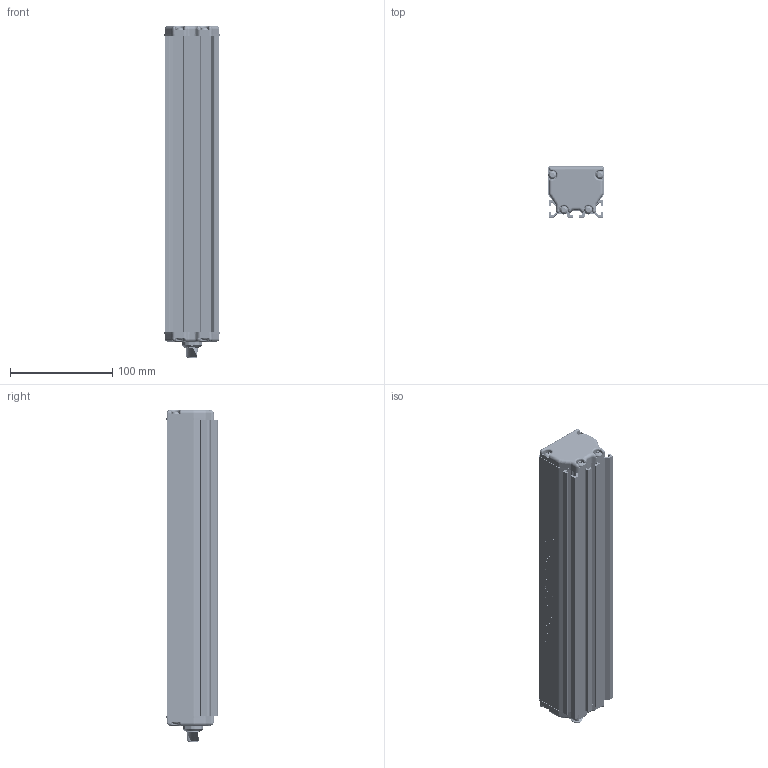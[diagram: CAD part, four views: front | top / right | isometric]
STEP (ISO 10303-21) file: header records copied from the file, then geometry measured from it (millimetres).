
FILE_DESCRIPTION (( 'STEP AP214' ), '1' );
FILE_NAME ('LSR-CONFIG.STEP', '2025-09-26T13:44:25', ( '' ), ( '' ), 'SwSTEP 2.0', 'SolidWorks 2025', '' );
FILE_SCHEMA (( 'AUTOMOTIVE_DESIGN' ));
Length unit declared in the file: millimetre
Products named in the file (20): GSKT0021; M12_NUT_M12_NUT; EXT0311-PRI_EXT0311-PRI; M12 CONNECTOR_Male; END CAP CONN ASY; LSR300-OPTIC-CARD-N1-SHIPKIT_xcadmodel-SVL-00003562; xcadmodel-SVL-00003429_xcadmodel-SVL-00003429; CBL0080; END CAP ASY; c-2106091-1-a_c-2106091-1-a; M4 X 12MM BH TORX _92832A330; xcadmodel-SVL-00004687_N1; LSR SINGLE ROW LED BOARD; LSR LED BRD SINGLE ROW ASY; LPT0466; xcadmodel-SVL-00003558_xcadmodel-SVL-00003558; LSR-CONFIG; LENS0065_TINA2-SERIES; HSG0204; HSG0205
Assembly tree (38 placements, depth 4):
  LSR-CONFIG
    EXT0311-PRI_EXT0311-PRI
    LSR300-OPTIC-CARD-N1-SHIPKIT_xcadmodel-SVL-00003562
      xcadmodel-SVL-00003429_xcadmodel-SVL-00003429
      xcadmodel-SVL-00003558_xcadmodel-SVL-00003558
      xcadmodel-SVL-00004687_N1
    LSR LED BRD SINGLE ROW ASY
      LSR SINGLE ROW LED BOARD
      LENS0065_TINA2-SERIES  x12
      c-2106091-1-a_c-2106091-1-a
    LPT0466
    END CAP CONN ASY
      HSG0205
      CBL0080
        M12 CONNECTOR_Male
      GSKT0021
      M12_NUT_M12_NUT
    END CAP ASY
      HSG0204
      GSKT0021
    M4 X 12MM BH TORX _92832A330  x8
Bounding box: 54.2 x 50 x 325.2 mm (x, y, z)
Volume: 332756.6 mm3; surface area: 312741.6 mm2
Topology: 57 solids, 58 shells, 6133 faces, 16702 edges, 10788 vertices
Faces by surface type: plane 2129, cylinder 1766, bspline 1522, cone 646, torus 42, sphere 28
Entity records: 130947 total; most frequent: CARTESIAN_POINT 63129, ORIENTED_EDGE 15174, DIRECTION 12239, EDGE_CURVE 7587, VERTEX_POINT 4969, LINE 4363, VECTOR 4363, AXIS2_PLACEMENT_3D 3938
